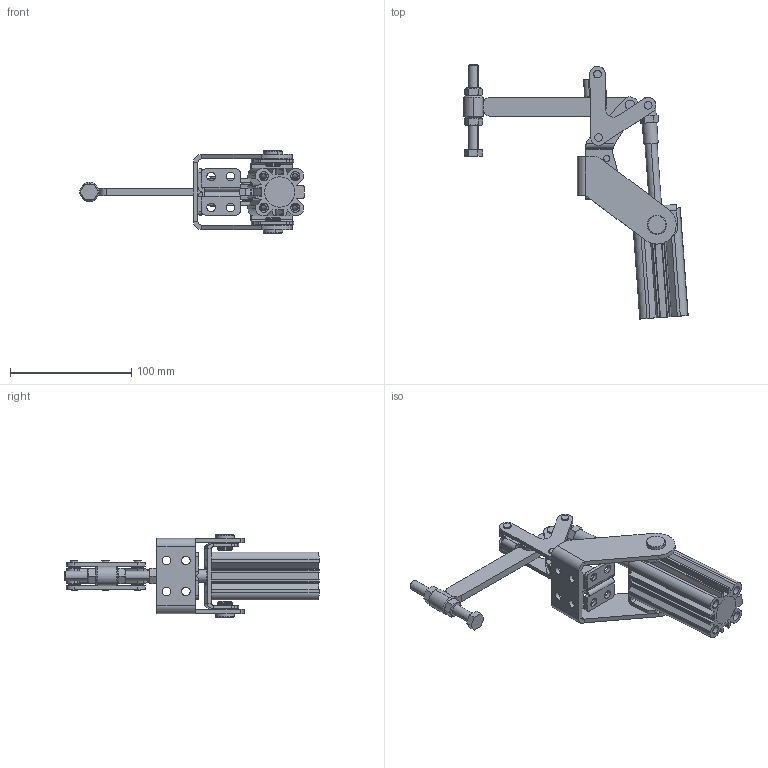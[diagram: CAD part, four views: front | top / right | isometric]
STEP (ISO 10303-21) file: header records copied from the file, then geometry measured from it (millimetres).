
FILE_DESCRIPTION (( 'STEP AP203' ), '1' );
FILE_NAME ('KF-718 S P.STEP', '2016-12-15T15:42:48', ( 'Ricardo' ), ( '' ), 'SwSTEP 2.0', 'SolidWorks 2015', '' );
FILE_SCHEMA (( 'CONFIG_CONTROL_DESIGN' ));
Length unit declared in the file: millimetre
Products named in the file (24): 11.50002; 06.50023; PSB-M8; 06.50028; 1 PC 21287; 06.50048; 02.12080_Esquerda; 01.10122_Direita; 2 PC 21287; 15.10070; 03.15020; 01.10122_Esquerda; 3 PC 21287; 16.20068; 04.10016; 02.12080_Direita; 2800250500XP_avan㌢do; 15.20010; 15.10069; KF-718 S P; 20.20004; 17.50011; 12.50020; 05.20001
Assembly tree (41 placements, depth 3):
  KF-718 S P
    01.10122_Direita
    01.10122_Esquerda
    02.12080_Direita
    02.12080_Esquerda
    03.15020
    04.10016
    15.10069
    17.50011  x12
    05.20001  x2
    06.50023  x2
    06.50028  x3
    06.50048  x2
    15.10070
    16.20068  x2
    15.20010
    PSB-M8
      20.20004
      12.50020
      11.50002  x2
    2800250500XP_avan㌢do
      1 PC 21287
      2 PC 21287
      3 PC 21287
Bounding box: 185.06 x 209.63 x 68 mm (x, y, z)
Volume: 174190.5 mm3; surface area: 108141.3 mm2
Topology: 39 solids, 39 shells, 881 faces, 2054 edges, 1276 vertices
Faces by surface type: cylinder 379, plane 300, cone 192, bspline 10
Entity records: 22705 total; most frequent: CARTESIAN_POINT 3878, DIRECTION 3503, ORIENTED_EDGE 3132, EDGE_CURVE 1566, AXIS2_PLACEMENT_3D 1344, VERTEX_POINT 993, LINE 815, VECTOR 815
